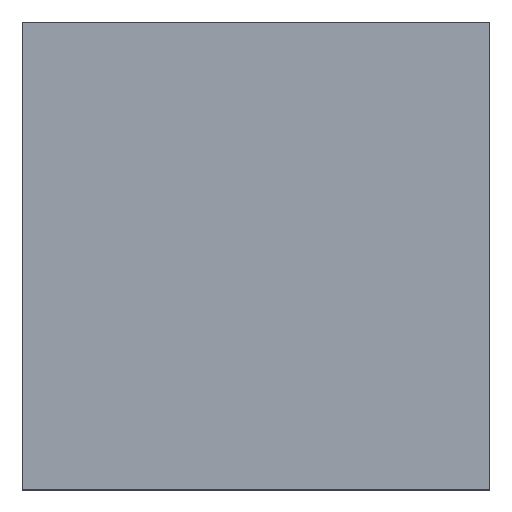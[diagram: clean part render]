
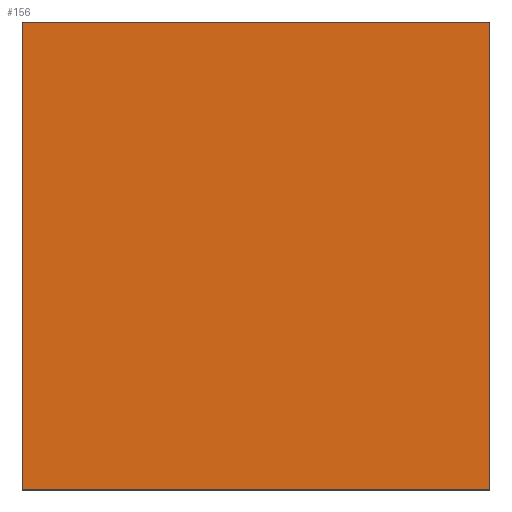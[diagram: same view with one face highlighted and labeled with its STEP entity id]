
A CAD part, top view. The second image highlights one B-rep face of the part: STEP entity #156.
In plain terms, the highlighted planar face has unit normal (0, 0, 1).
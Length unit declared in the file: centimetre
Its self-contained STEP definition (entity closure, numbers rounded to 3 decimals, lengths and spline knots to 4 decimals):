
#12 = LINE ( 'NONE', #93, #295 ) ;
#39 = EDGE_CURVE ( 'NONE', #363, #92, #12, .T. ) ;
#54 = ORIENTED_EDGE ( 'NONE', *, *, #111, .T. ) ;
#59 = CARTESIAN_POINT ( 'NONE',  ( 0., 0., 1000. ) ) ;
#61 = LINE ( 'NONE', #59, #272 ) ;
#69 = VERTEX_POINT ( 'NONE', #228 ) ;
#92 = VERTEX_POINT ( 'NONE', #350 ) ;
#93 = CARTESIAN_POINT ( 'NONE',  ( 0., 1000., 1000. ) ) ;
#111 = EDGE_CURVE ( 'NONE', #92, #69, #61, .T. ) ;
#154 = DIRECTION ( 'NONE',  ( 1., 0., 0. ) ) ;
#156 = ADVANCED_FACE ( 'NONE', ( #242 ), #240, .T. ) ;
#163 = VECTOR ( 'NONE', #243, 100. ) ;
#166 = LINE ( 'NONE', #331, #328 ) ;
#172 = VERTEX_POINT ( 'NONE', #268 ) ;
#175 = DIRECTION ( 'NONE',  ( 1., 0., 0. ) ) ;
#180 = DIRECTION ( 'NONE',  ( 0., 0., 1. ) ) ;
#182 = CARTESIAN_POINT ( 'NONE',  ( 0., 0., 1000. ) ) ;
#191 = EDGE_LOOP ( 'NONE', ( #196, #54, #261, #279 ) ) ;
#196 = ORIENTED_EDGE ( 'NONE', *, *, #39, .T. ) ;
#211 = EDGE_CURVE ( 'NONE', #172, #363, #166, .T. ) ;
#228 = CARTESIAN_POINT ( 'NONE',  ( 1000., 0., 1000. ) ) ;
#240 = PLANE ( 'NONE',  #368 ) ;
#241 = EDGE_CURVE ( 'NONE', #69, #172, #334, .T. ) ;
#242 = FACE_OUTER_BOUND ( 'NONE', #191, .T. ) ;
#243 = DIRECTION ( 'NONE',  ( 0., 1., 0. ) ) ;
#261 = ORIENTED_EDGE ( 'NONE', *, *, #241, .T. ) ;
#268 = CARTESIAN_POINT ( 'NONE',  ( 1000., 1000., 1000. ) ) ;
#272 = VECTOR ( 'NONE', #175, 100. ) ;
#274 = DIRECTION ( 'NONE',  ( -1., 0., 0. ) ) ;
#279 = ORIENTED_EDGE ( 'NONE', *, *, #211, .T. ) ;
#290 = DIRECTION ( 'NONE',  ( 0., -1., 0. ) ) ;
#295 = VECTOR ( 'NONE', #290, 100. ) ;
#307 = CARTESIAN_POINT ( 'NONE',  ( 0., 1000., 1000. ) ) ;
#328 = VECTOR ( 'NONE', #274, 100. ) ;
#331 = CARTESIAN_POINT ( 'NONE',  ( 0., 1000., 1000. ) ) ;
#334 = LINE ( 'NONE', #356, #163 ) ;
#350 = CARTESIAN_POINT ( 'NONE',  ( 0., 0., 1000. ) ) ;
#356 = CARTESIAN_POINT ( 'NONE',  ( 1000., 1000., 1000. ) ) ;
#363 = VERTEX_POINT ( 'NONE', #307 ) ;
#368 = AXIS2_PLACEMENT_3D ( 'NONE', #182, #180, #154 ) ;
